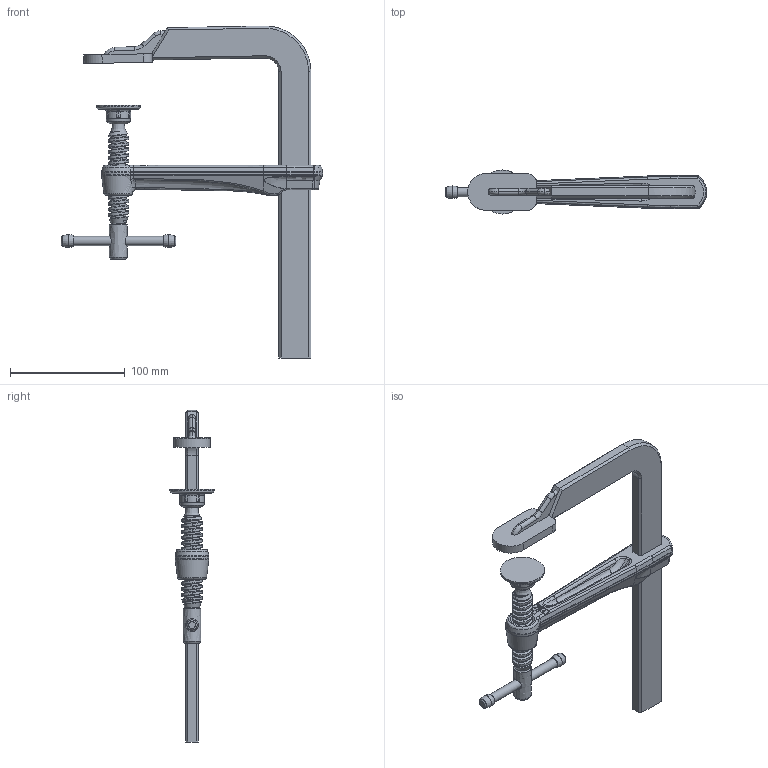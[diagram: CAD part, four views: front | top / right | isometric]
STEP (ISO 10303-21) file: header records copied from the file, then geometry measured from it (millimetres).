
FILE_DESCRIPTION( ('This file contains a STEP AP42 implementation' ,'as created by ZW3D STEP Interface translator.') ,'2;1' );
FILE_NAME( 'GZ20-14K.stp' ,'20 630.135131', (''), ('ZWCAD Software Co.'), 'Version 1.0', 'ZW3D to STEP translator', '' );
FILE_SCHEMA(('AUTOMOTIVE_DESIGN'));
Length unit declared in the file: millimetre
Products named in the file (2): 0; GZ20-14K
Bounding box: 228.27 x 38.5 x 289.84 mm (x, y, z)
Volume: 235650.5 mm3; surface area: 73696.2 mm2
Topology: 31 solids, 31 shells, 445 faces, 1081 edges, 685 vertices
Faces by surface type: bspline 445
Entity records: 96088 total; most frequent: CARTESIAN_POINT 89322, ORIENTED_EDGE 2152, EDGE_CURVE 1076, B_SPLINE_CURVE_WITH_KNOTS 769, VERTEX_POINT 685, EDGE_LOOP 462, FACE_OUTER_BOUND 445, ADVANCED_FACE 445
